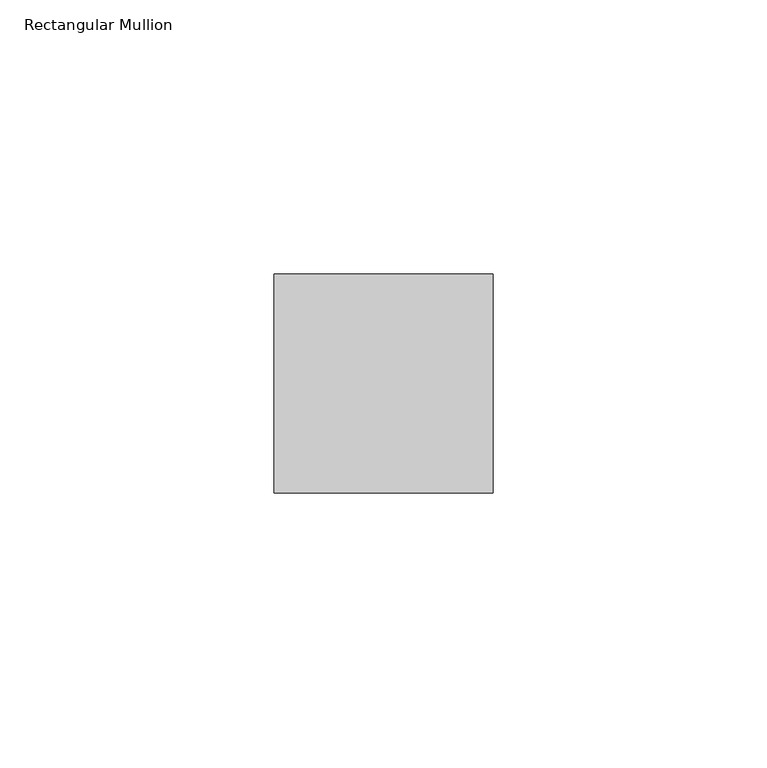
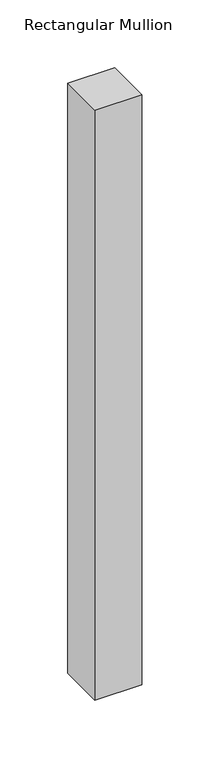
"""IFC4 building model written with IfcOpenShell, lengths in millimetres: member geometry, Rectangular Mullion : Danpal_NM_MiddleH-Mullion."""

from ifc_helpers import new_model, si_unit, frame, origin, place, context, project, spatial, polyline, outline, extrude, source, transform, mapped, element, save


def rectangular_mullion_f51daa18(model_context):
    return source(origin(), model_context, "Body", "SweptSolid", [
        extrude(outline(polyline([(0.0, 108.6621721), (0.0, 68.6621721), (-40.0, 68.6621721), (-40.0, 108.6621721), (0.0, 108.6621721)])), frame((0.0, 0.0, -531.2), z_axis=(0.0, 0.0, 1.0), x_axis=(1.0, 0.0, 0.0)), (0.0, 0.0, 1.0), 531.2),
    ])


if __name__ == "__main__":
    model = new_model("IFC4")
    model_context = context("Model", 3, world=origin())
    ifc_project = project(units=[si_unit("LENGTHUNIT", "METRE", prefix="MILLI")], contexts=[model_context])
    site = spatial("IfcSite", under=ifc_project)
    building = spatial("IfcBuilding", under=site)
    placement = place(None, origin())
    rectangular_mullion_shape = rectangular_mullion_f51daa18(model_context)
    element("IfcMember", 1, ObjectType="Rectangular Mullion : Danpal_NM_MiddleH-Mullion", at=placement, inside=building, context=model_context, shape_type="MappedRepresentation", body=[
        mapped(rectangular_mullion_shape, transform((0.0, 0.0, 0.0), x_axis=(1.0, 0.0, 0.0), y_axis=(0.0, 1.0, 0.0), z_axis=(0.0, 0.0, 1.0))),
    ])
    save(model, "model.ifc")
